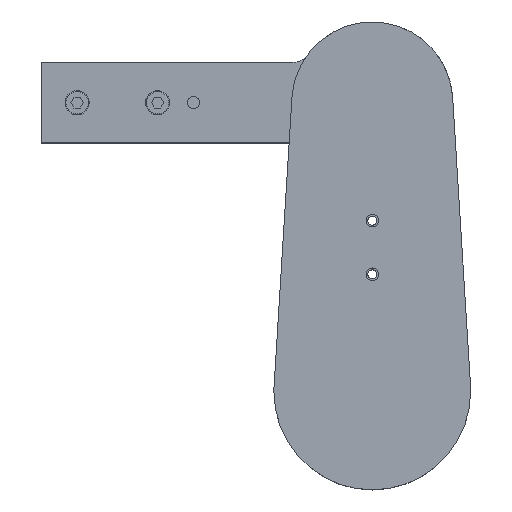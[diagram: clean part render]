
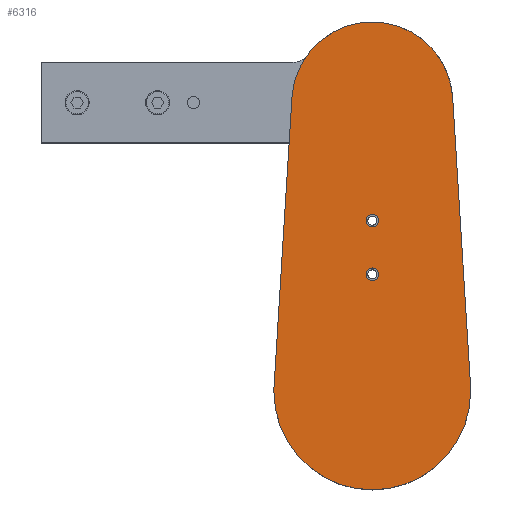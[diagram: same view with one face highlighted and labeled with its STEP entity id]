
A CAD part, top view. The second image highlights one B-rep face of the part: STEP entity #6316.
In plain terms, the highlighted planar face has unit normal (0, 0, 1) as drawn and (0, 0, -1) by its records, which use the part's own axes.
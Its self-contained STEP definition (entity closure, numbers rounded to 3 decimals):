
#41 = DIRECTION ( 'NONE',  ( -0.062, 0.998, 0. ) ) ;
#680 = CARTESIAN_POINT ( 'NONE',  ( -44.914, 164.286, 0. ) ) ;
#830 = DIRECTION ( 'NONE',  ( 1., 0., 0. ) ) ;
#1850 = CIRCLE ( 'NONE', #36489, 55. ) ;
#2052 = ORIENTED_EDGE ( 'NONE', *, *, #62891, .F. ) ;
#3079 = VERTEX_POINT ( 'NONE', #33952 ) ;
#3808 = ORIENTED_EDGE ( 'NONE', *, *, #63357, .F. ) ;
#4172 = AXIS2_PLACEMENT_3D ( 'NONE', #32800, #76998, #39141 ) ;
#5703 = CARTESIAN_POINT ( 'NONE',  ( 0., 65.5, 0. ) ) ;
#6041 = LINE ( 'NONE', #44902, #55394 ) ;
#6316 = ADVANCED_FACE ( 'NONE', ( #61212, #69116, #71137 ), #46599, .F. ) ;
#6786 = DIRECTION ( 'NONE',  ( 0., 0., 1. ) ) ;
#8867 = DIRECTION ( 'NONE',  ( 0., 0., 1. ) ) ;
#10591 = CARTESIAN_POINT ( 'NONE',  ( 54.894, 3.406, 0. ) ) ;
#10965 = DIRECTION ( 'NONE',  ( 0., 0., -1. ) ) ;
#11432 = EDGE_CURVE ( 'NONE', #25262, #54370, #41945, .T. ) ;
#13343 = ORIENTED_EDGE ( 'NONE', *, *, #55375, .F. ) ;
#13388 = VERTEX_POINT ( 'NONE', #37273 ) ;
#13392 = CIRCLE ( 'NONE', #41898, 55. ) ;
#13721 = CIRCLE ( 'NONE', #15873, 3.5 ) ;
#15873 = AXIS2_PLACEMENT_3D ( 'NONE', #5703, #10965, #55622 ) ;
#17988 = CARTESIAN_POINT ( 'NONE',  ( 0., 0., 0. ) ) ;
#20983 = CARTESIAN_POINT ( 'NONE',  ( -54.894, 3.406, 0. ) ) ;
#22433 = AXIS2_PLACEMENT_3D ( 'NONE', #38802, #25850, #830 ) ;
#23299 = EDGE_LOOP ( 'NONE', ( #81751, #2052 ) ) ;
#25262 = VERTEX_POINT ( 'NONE', #39346 ) ;
#25613 = CIRCLE ( 'NONE', #33931, 3.5 ) ;
#25733 = CARTESIAN_POINT ( 'NONE',  ( 0., 0., 0. ) ) ;
#25850 = DIRECTION ( 'NONE',  ( 0., 0., 1. ) ) ;
#26044 = CARTESIAN_POINT ( 'NONE',  ( 44.914, 164.286, 0. ) ) ;
#27770 = CARTESIAN_POINT ( 'NONE',  ( 0., 161.5, 0. ) ) ;
#28318 = VERTEX_POINT ( 'NONE', #26044 ) ;
#28324 = DIRECTION ( 'NONE',  ( 1., 0., 0. ) ) ;
#29672 = CARTESIAN_POINT ( 'NONE',  ( 3.5, 95.5, 0. ) ) ;
#32655 = EDGE_CURVE ( 'NONE', #64048, #79326, #35822, .T. ) ;
#32800 = CARTESIAN_POINT ( 'NONE',  ( 0., 95.5, 0. ) ) ;
#33336 = AXIS2_PLACEMENT_3D ( 'NONE', #25733, #6786, #50577 ) ;
#33931 = AXIS2_PLACEMENT_3D ( 'NONE', #53228, #40750, #28324 ) ;
#33952 = CARTESIAN_POINT ( 'NONE',  ( -44.914, 164.286, 0. ) ) ;
#34177 = AXIS2_PLACEMENT_3D ( 'NONE', #27770, #8867, #45768 ) ;
#34491 = ORIENTED_EDGE ( 'NONE', *, *, #65057, .F. ) ;
#34637 = EDGE_CURVE ( 'NONE', #46401, #57062, #25613, .T. ) ;
#35822 = CIRCLE ( 'NONE', #67072, 3.5 ) ;
#36489 = AXIS2_PLACEMENT_3D ( 'NONE', #17988, #40761, #72820 ) ;
#37273 = CARTESIAN_POINT ( 'NONE',  ( -55., 0., 0. ) ) ;
#38802 = CARTESIAN_POINT ( 'NONE',  ( 0., 161.5, 0. ) ) ;
#39054 = DIRECTION ( 'NONE',  ( 1., 0., 0. ) ) ;
#39141 = DIRECTION ( 'NONE',  ( 1., 0., 0. ) ) ;
#39346 = CARTESIAN_POINT ( 'NONE',  ( 55., 0., 0. ) ) ;
#40750 = DIRECTION ( 'NONE',  ( 0., 0., -1. ) ) ;
#40761 = DIRECTION ( 'NONE',  ( 0., 0., 1. ) ) ;
#41898 = AXIS2_PLACEMENT_3D ( 'NONE', #58489, #64800, #57675 ) ;
#41945 = CIRCLE ( 'NONE', #33336, 55. ) ;
#44329 = EDGE_CURVE ( 'NONE', #57062, #46401, #65017, .T. ) ;
#44499 = ORIENTED_EDGE ( 'NONE', *, *, #79537, .F. ) ;
#44902 = CARTESIAN_POINT ( 'NONE',  ( 44.914, 164.286, 0. ) ) ;
#45768 = DIRECTION ( 'NONE',  ( 1., 0., 0. ) ) ;
#46401 = VERTEX_POINT ( 'NONE', #51548 ) ;
#46599 = PLANE ( 'NONE',  #34177 ) ;
#48813 = CARTESIAN_POINT ( 'NONE',  ( -3.5, 65.5, 0. ) ) ;
#50577 = DIRECTION ( 'NONE',  ( 1., 0., 0. ) ) ;
#51505 = DIRECTION ( 'NONE',  ( 0., 0., -1. ) ) ;
#51548 = CARTESIAN_POINT ( 'NONE',  ( -3.5, 95.5, 0. ) ) ;
#52045 = CARTESIAN_POINT ( 'NONE',  ( 0., 65.5, 0. ) ) ;
#52981 = ORIENTED_EDGE ( 'NONE', *, *, #34637, .F. ) ;
#53228 = CARTESIAN_POINT ( 'NONE',  ( 0., 95.5, 0. ) ) ;
#54370 = VERTEX_POINT ( 'NONE', #10591 ) ;
#55253 = ORIENTED_EDGE ( 'NONE', *, *, #44329, .F. ) ;
#55375 = EDGE_CURVE ( 'NONE', #3079, #70412, #63295, .T. ) ;
#55394 = VECTOR ( 'NONE', #41, 1000. ) ;
#55622 = DIRECTION ( 'NONE',  ( 1., 0., 0. ) ) ;
#55877 = EDGE_CURVE ( 'NONE', #54370, #28318, #6041, .T. ) ;
#56259 = ORIENTED_EDGE ( 'NONE', *, *, #11432, .F. ) ;
#57062 = VERTEX_POINT ( 'NONE', #29672 ) ;
#57675 = DIRECTION ( 'NONE',  ( 1., 0., 0. ) ) ;
#58315 = DIRECTION ( 'NONE',  ( -0.062, -0.998, 0. ) ) ;
#58489 = CARTESIAN_POINT ( 'NONE',  ( 0., 0., 0. ) ) ;
#59740 = ORIENTED_EDGE ( 'NONE', *, *, #55877, .F. ) ;
#60121 = EDGE_LOOP ( 'NONE', ( #44499, #59740, #56259, #34491, #3808, #13343 ) ) ;
#61212 = FACE_BOUND ( 'NONE', #75113, .T. ) ;
#62405 = CARTESIAN_POINT ( 'NONE',  ( 3.5, 65.5, 0. ) ) ;
#62891 = EDGE_CURVE ( 'NONE', #79326, #64048, #13721, .T. ) ;
#63295 = LINE ( 'NONE', #680, #67275 ) ;
#63357 = EDGE_CURVE ( 'NONE', #70412, #13388, #1850, .T. ) ;
#64048 = VERTEX_POINT ( 'NONE', #62405 ) ;
#64800 = DIRECTION ( 'NONE',  ( 0., 0., 1. ) ) ;
#65017 = CIRCLE ( 'NONE', #4172, 3.5 ) ;
#65057 = EDGE_CURVE ( 'NONE', #13388, #25262, #13392, .T. ) ;
#66568 = CIRCLE ( 'NONE', #22433, 45. ) ;
#67072 = AXIS2_PLACEMENT_3D ( 'NONE', #52045, #51505, #39054 ) ;
#67275 = VECTOR ( 'NONE', #58315, 1000. ) ;
#69116 = FACE_BOUND ( 'NONE', #23299, .T. ) ;
#70412 = VERTEX_POINT ( 'NONE', #20983 ) ;
#71137 = FACE_OUTER_BOUND ( 'NONE', #60121, .T. ) ;
#72820 = DIRECTION ( 'NONE',  ( 1., 0., 0. ) ) ;
#75113 = EDGE_LOOP ( 'NONE', ( #55253, #52981 ) ) ;
#76998 = DIRECTION ( 'NONE',  ( 0., 0., -1. ) ) ;
#79326 = VERTEX_POINT ( 'NONE', #48813 ) ;
#79537 = EDGE_CURVE ( 'NONE', #28318, #3079, #66568, .T. ) ;
#81751 = ORIENTED_EDGE ( 'NONE', *, *, #32655, .F. ) ;
